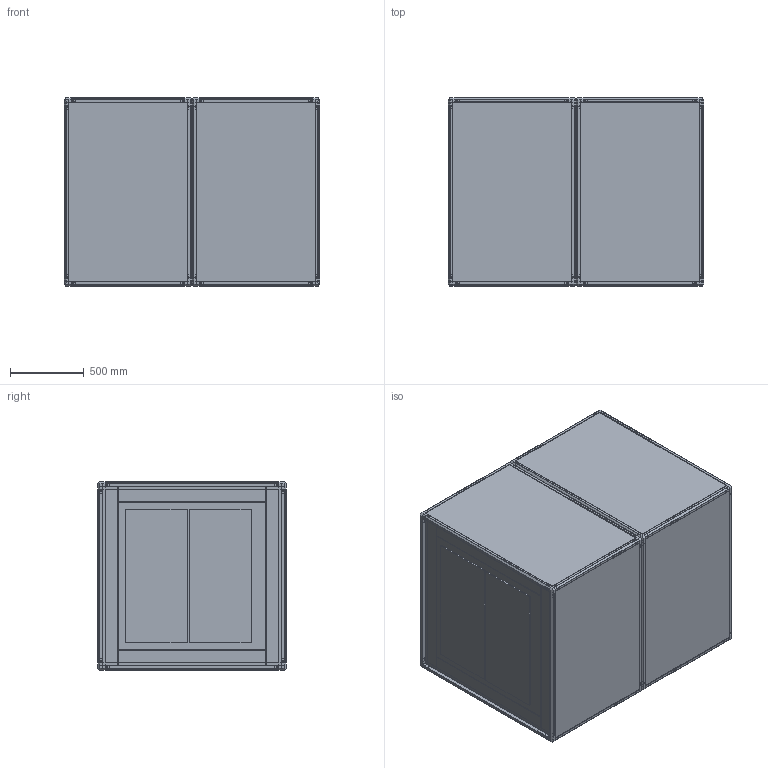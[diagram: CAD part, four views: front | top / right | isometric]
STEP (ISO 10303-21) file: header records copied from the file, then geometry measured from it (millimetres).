
FILE_DESCRIPTION(/* description */ ('STEP AP214'),/* implementation_level */ '2;1');
FILE_NAME(/* name */ 'C:\Users\CAD 1\Desktop\uta10k\UTA_10000.stp',/* time_stamp */ '2021-11-15T13:49:24+01:00',/* author */ ('CAD 1'),/* organization */ (''),/* preprocessor_version */ 'ST-DEVELOPER v18.1',/* originating_system */ 'Autodesk Inventor 2021',/* authorisation */ '');
FILE_SCHEMA (('AUTOMOTIVE_DESIGN { 1 0 10303 214 3 1 1 }'));
Products named in the file (19): UTA_10000; Omega_Sup_Inf_Demister_10000; Omega_Laterale_Demister_10000; Demister_10000; VENTOLA_ZHIEL_GR50; APS_Arosio_30_Piatto_1210; APS_Arosio_PS130-25-0_L730; APS_Arosio_PS130-25-0_1173_L730; APS_Arosio_PS130-25-0_1174_L730; APS_Arosio_PS130-25-0_Giunto; Giunto_p2; Giunto_p1; Flangia_Filtro_Uta_10000; Isolante_Batteria_10000; Vaschetta_10000; Isolante_Batteria_5000_412; Batteria_10000; filtro; Pannelli_Copertura_805_1212
Assembly tree (69 placements, depth 3):
  UTA_10000
    APS_Arosio_PS130-25-0_L730  x8
    Omega_Sup_Inf_Demister_10000  x2
    Omega_Laterale_Demister_10000  x2
    APS_Arosio_30_Piatto_1210  x4
    Demister_10000
    VENTOLA_ZHIEL_GR50
    APS_Arosio_PS130-25-0_Giunto  x16
      Giunto_p1
      Giunto_p2
    APS_Arosio_PS130-25-0_1174_L730  x8
    APS_Arosio_PS130-25-0_1173_L730  x8
    Pannelli_Copertura_805_1212  x8
    Flangia_Filtro_Uta_10000
    Isolante_Batteria_10000
    Vaschetta_10000
    Isolante_Batteria_5000_412  x2
    Batteria_10000
    filtro
Bounding box: 1730 x 1273 x 1274 mm (x, y, z)
Volume: 859333238.2 mm3; surface area: 44540519.2 mm2
Topology: 114 solids, 114 shells, 5928 faces, 14869 edges, 8853 vertices
Faces by surface type: cylinder 2464, plane 2035, torus 808, sphere 435, bspline 154, cone 32
Full cylindrical faces by diameter (mm): 3.25 x32, 3.3 x1, 4 x97, 4.13 x1, 4.7 x1, 5.5 x8, 6 x1, 6.8 x12, 7.2 x2, 7.4 x1, 8.5 x16, 9 x6, 10 x8, 11 x28, 18 x20, 25 x4, 28.27 x1, 188 x1, 195.5 x1, 196.4 x1, 196.5 x2, 227.5 x1, 275 x2, 369 x1, 376.2 x1, 460 x1, 509 x1, 514 x1, 516.2 x1, 571.4 x1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
Entity records: 55929 total; most frequent: CARTESIAN_POINT 24886, ORIENTED_EDGE 6326, DIRECTION 6236, EDGE_CURVE 3163, AXIS2_PLACEMENT_3D 2343, VERTEX_POINT 2111, LINE 1550, VECTOR 1550
